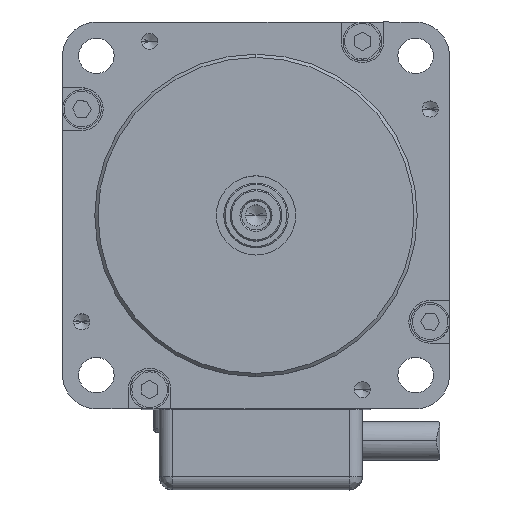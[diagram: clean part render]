
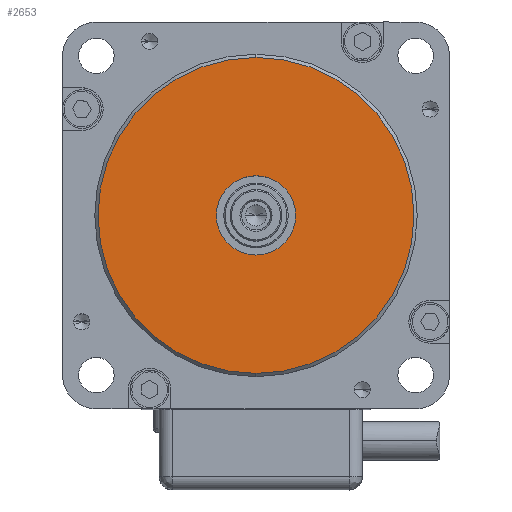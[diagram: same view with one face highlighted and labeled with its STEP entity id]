
A CAD part, top view. The second image highlights one B-rep face of the part: STEP entity #2653.
In plain terms, the highlighted planar face has unit normal (0, 0, 1).
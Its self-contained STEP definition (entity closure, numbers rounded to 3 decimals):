
#116 = EDGE_LOOP ( 'NONE', ( #8819, #4563 ) ) ;
#485 = DIRECTION ( 'NONE',  ( 0., 0., -1. ) ) ;
#972 = VERTEX_POINT ( 'NONE', #10834 ) ;
#1171 = DIRECTION ( 'NONE',  ( 0., 0., -1. ) ) ;
#1186 = PLANE ( 'NONE',  #8751 ) ;
#1851 = ORIENTED_EDGE ( 'NONE', *, *, #11856, .T. ) ;
#2157 = CARTESIAN_POINT ( 'NONE',  ( 0., 0., 3. ) ) ;
#2527 = VERTEX_POINT ( 'NONE', #3864 ) ;
#2653 = ADVANCED_FACE ( 'NONE', ( #3116, #10426 ), #1186, .T. ) ;
#2796 = ORIENTED_EDGE ( 'NONE', *, *, #12933, .T. ) ;
#3116 = FACE_BOUND ( 'NONE', #8066, .T. ) ;
#3175 = CARTESIAN_POINT ( 'NONE',  ( 0., 0., 3. ) ) ;
#3181 = DIRECTION ( 'NONE',  ( 0., -1., 0. ) ) ;
#3864 = CARTESIAN_POINT ( 'NONE',  ( 0., 6.15, 3. ) ) ;
#4090 = EDGE_CURVE ( 'NONE', #9429, #972, #13097, .T. ) ;
#4563 = ORIENTED_EDGE ( 'NONE', *, *, #5299, .F. ) ;
#4977 = CIRCLE ( 'NONE', #9785, 24.5 ) ;
#5299 = EDGE_CURVE ( 'NONE', #972, #9429, #4977, .T. ) ;
#5346 = DIRECTION ( 'NONE',  ( 0., 1., 0. ) ) ;
#6032 = CIRCLE ( 'NONE', #7522, 6.15 ) ;
#7245 = CARTESIAN_POINT ( 'NONE',  ( 0., 24.5, 3. ) ) ;
#7253 = DIRECTION ( 'NONE',  ( 0., 0., -1. ) ) ;
#7322 = DIRECTION ( 'NONE',  ( 0., 1., 0. ) ) ;
#7522 = AXIS2_PLACEMENT_3D ( 'NONE', #3175, #9474, #7322 ) ;
#7745 = CARTESIAN_POINT ( 'NONE',  ( 0., 0., 3. ) ) ;
#8001 = CARTESIAN_POINT ( 'NONE',  ( 0., -6.15, 3. ) ) ;
#8066 = EDGE_LOOP ( 'NONE', ( #1851, #2796 ) ) ;
#8426 = CARTESIAN_POINT ( 'NONE',  ( 0., 0., 3. ) ) ;
#8751 = AXIS2_PLACEMENT_3D ( 'NONE', #2157, #10360, #3181 ) ;
#8819 = ORIENTED_EDGE ( 'NONE', *, *, #4090, .F. ) ;
#8939 = AXIS2_PLACEMENT_3D ( 'NONE', #7745, #485, #11918 ) ;
#9429 = VERTEX_POINT ( 'NONE', #7245 ) ;
#9474 = DIRECTION ( 'NONE',  ( 0., 0., -1. ) ) ;
#9785 = AXIS2_PLACEMENT_3D ( 'NONE', #10541, #1171, #5346 ) ;
#10360 = DIRECTION ( 'NONE',  ( 0., 0., 1. ) ) ;
#10426 = FACE_OUTER_BOUND ( 'NONE', #116, .T. ) ;
#10541 = CARTESIAN_POINT ( 'NONE',  ( 0., 0., 3. ) ) ;
#10834 = CARTESIAN_POINT ( 'NONE',  ( 0., -24.5, 3. ) ) ;
#11297 = AXIS2_PLACEMENT_3D ( 'NONE', #8426, #7253, #11359 ) ;
#11359 = DIRECTION ( 'NONE',  ( 0., 1., 0. ) ) ;
#11507 = CIRCLE ( 'NONE', #11297, 6.15 ) ;
#11856 = EDGE_CURVE ( 'NONE', #2527, #12848, #6032, .T. ) ;
#11918 = DIRECTION ( 'NONE',  ( 0., 1., 0. ) ) ;
#12848 = VERTEX_POINT ( 'NONE', #8001 ) ;
#12933 = EDGE_CURVE ( 'NONE', #12848, #2527, #11507, .T. ) ;
#13097 = CIRCLE ( 'NONE', #8939, 24.5 ) ;
